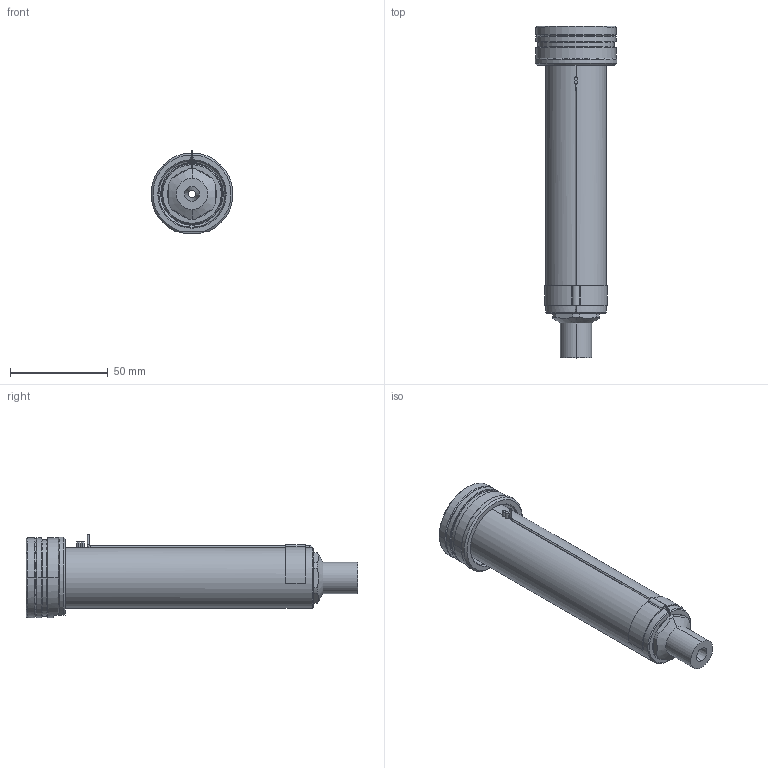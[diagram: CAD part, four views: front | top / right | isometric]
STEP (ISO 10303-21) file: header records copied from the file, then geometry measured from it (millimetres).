
FILE_DESCRIPTION((''),'2;1');
FILE_NAME('EO12_VG-ST_ESG_140_SW','2024-02-19T12:53:23',('sundharh'),(''),'CREO PARAMETRIC BY PTC INC, 2023154','CREO PARAMETRIC BY PTC INC, 2023154','');
FILE_SCHEMA(('CONFIG_CONTROL_DESIGN'));
Length unit declared in the file: millimetre
Products named in the file (1): EO12_VG-ST_ESG_140_SW
Bounding box: 41.85 x 170 x 43 mm (x, y, z)
Volume: 108551.1 mm3; surface area: 29108.9 mm2
Topology: 2 solids, 3 shells, 181 faces, 453 edges, 277 vertices
Faces by surface type: cylinder 65, plane 45, cone 37, torus 27, bspline 5, sphere 2
Entity records: 6161 total; most frequent: CARTESIAN_POINT 1726, DIRECTION 986, ORIENTED_EDGE 898, EDGE_CURVE 449, AXIS2_PLACEMENT_3D 412, VERTEX_POINT 277, CIRCLE 236, EDGE_LOOP 196
